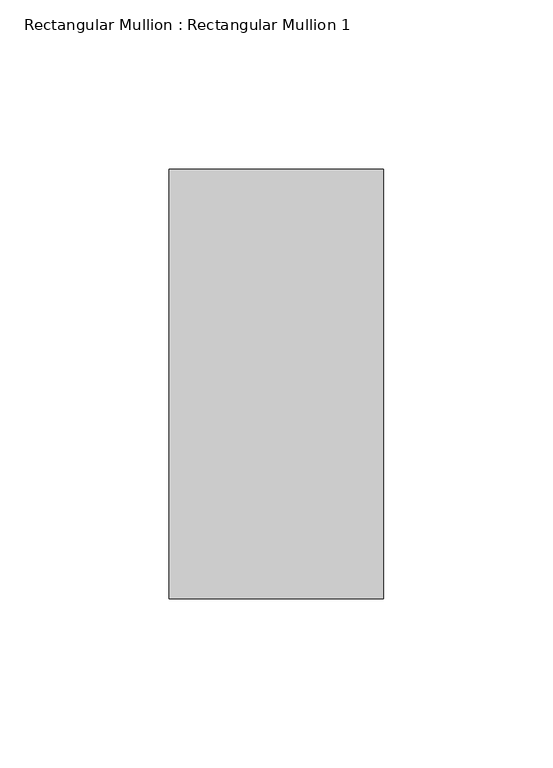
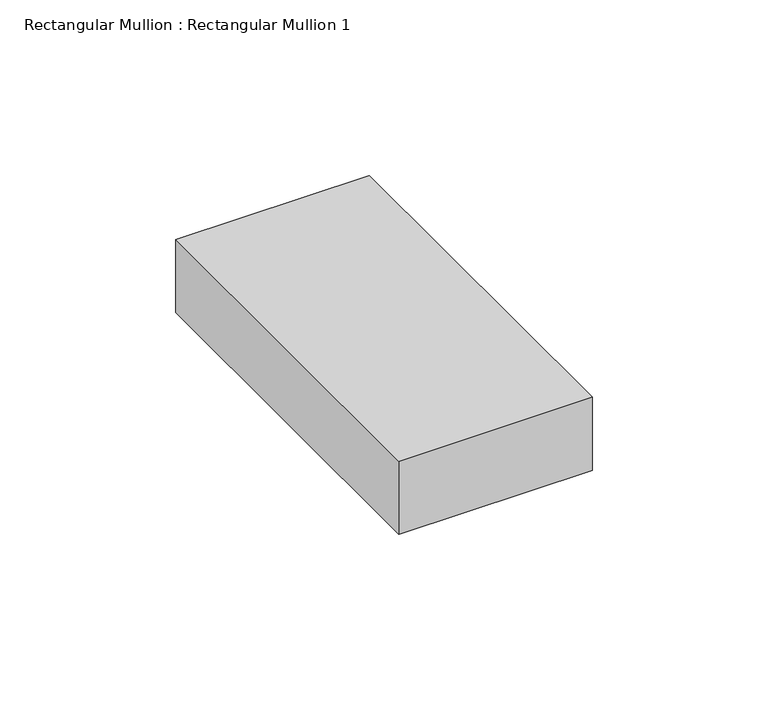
"""IFC4 building model written with IfcOpenShell, lengths in millimetres: member geometry, Rectangular Mullion : Rectangular Mullion 1."""

from ifc_helpers import new_model, si_unit, frame, origin, place, context, project, spatial, polyline, outline, extrude, source, transform, mapped, element, save


def rectangular_mullion_rectangular_mullion_1_c89d8757(model_context):
    return source(origin(), model_context, "Body", "SweptSolid", [
        extrude(outline(polyline([(0.0, 63.5), (0.0, -63.5), (-63.5, -63.5), (-63.5, 63.5), (0.0, 63.5)])), frame((0.0, 0.0, -25.3999997), z_axis=(0.0, 0.0, 1.0), x_axis=(1.0, 0.0, 0.0)), (0.0, 0.0, 1.0), 25.3999997),
    ])


if __name__ == "__main__":
    model = new_model("IFC4")
    model_context = context("Model", 3, world=origin())
    ifc_project = project(units=[si_unit("LENGTHUNIT", "METRE", prefix="MILLI")], contexts=[model_context])
    site = spatial("IfcSite", under=ifc_project)
    building = spatial("IfcBuilding", under=site)
    placement = place(None, origin())
    rectangular_mullion_rectangular_mullion_1_shape = rectangular_mullion_rectangular_mullion_1_c89d8757(model_context)
    element("IfcMember", 1, ObjectType="Rectangular Mullion : Rectangular Mullion 1", at=placement, inside=building, context=model_context, shape_type="MappedRepresentation", body=[
        mapped(rectangular_mullion_rectangular_mullion_1_shape, transform((0.0, 0.0, 0.0), x_axis=(1.0, 0.0, 0.0), y_axis=(0.0, 1.0, 0.0), z_axis=(0.0, 0.0, 1.0))),
    ])
    save(model, "model.ifc")
